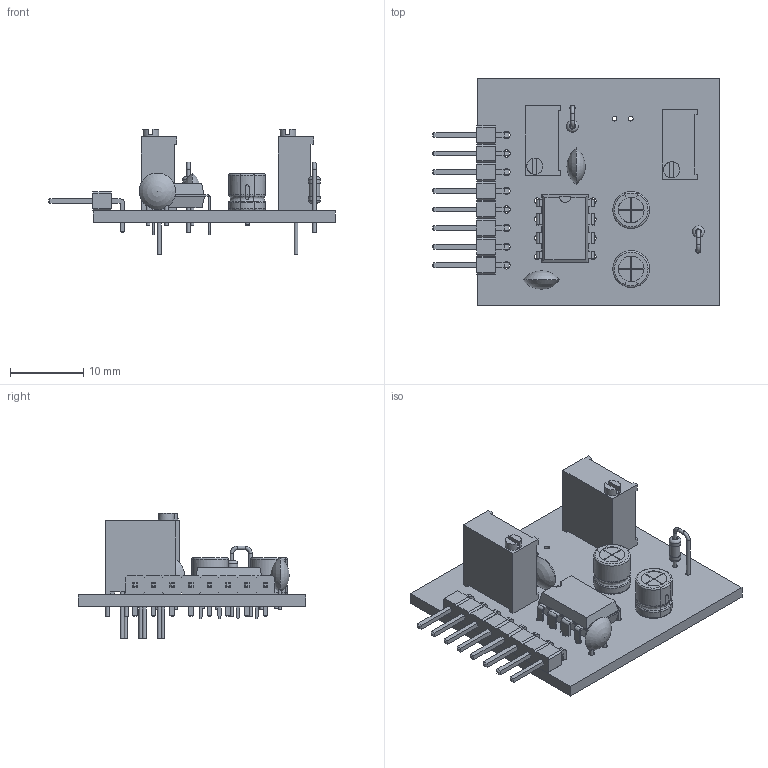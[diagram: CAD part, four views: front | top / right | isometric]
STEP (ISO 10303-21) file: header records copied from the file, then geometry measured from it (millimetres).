
FILE_DESCRIPTION(('KiCad electronic assembly'),'2;1');
FILE_NAME('V2.step','2025-07-06T22:17:55',('Pcbnew'),('Kicad'), 'Open CASCADE STEP processor 7.7','KiCad to STEP converter','Unknown' );
FILE_SCHEMA(('AUTOMOTIVE_DESIGN { 1 0 10303 214 1 1 1 1 }'));
Length unit declared in the file: millimetre
Products named in the file (14): V2 1; Potentiometer_Bourns_3296W_Vertical; C_Disc_D5.0mm_W2.5mm_P2.50mm; C_Disc_D50mm_W25mm_P250mm; DIP-8_W7.62mm; CP_Radial_D5.0mm_P2.00mm; CP_Radial_D50mm_P200mm; R_Axial_DIN0204_L3.6mm_D1.6mm_P2.54mm_Vertical; R_Axial_DIN0204_L36mm_D16mm_P254mm_Vertical; PinHeader_1x08_P2.54mm_Horizontal; PinHeader_1x08_P254mm_Horizontal; MARK3V1_PCB
Assembly tree (17 placements, depth 3):
  V2 1
    Potentiometer_Bourns_3296W_Vertical  x2
      Potentiometer_Bourns_3296W_Vertical
    C_Disc_D5.0mm_W2.5mm_P2.50mm  x2
      C_Disc_D50mm_W25mm_P250mm
    DIP-8_W7.62mm
      DIP-8_W7.62mm
    CP_Radial_D5.0mm_P2.00mm  x2
      CP_Radial_D50mm_P200mm
    R_Axial_DIN0204_L3.6mm_D1.6mm_P2.54mm_Vertical  x2
      R_Axial_DIN0204_L36mm_D16mm_P254mm_Vertical
    PinHeader_1x08_P2.54mm_Horizontal
      PinHeader_1x08_P254mm_Horizontal
    MARK3V1_PCB
Bounding box: 39.04 x 31 x 17.07 mm (x, y, z)
Volume: 3056 mm3; surface area: 4434.1 mm2
Topology: 11 solids, 13 shells, 618 faces, 1534 edges, 974 vertices
Faces by surface type: plane 447, cylinder 113, bspline 32, torus 12, revolution 10, sphere 4
Full cylindrical faces by diameter (mm): 0.5 x16, 0.51 x6, 0.65 x2, 0.7 x4, 0.8 x22, 1 x8, 1.44 x2, 1.6 x4, 2.19 x2
Entity records: 19940 total; most frequent: CARTESIAN_POINT 3919, ORIENTED_EDGE 2588, DIRECTION 2465, EDGE_CURVE 1294, LINE 1038, VECTOR 1038, VERTEX_POINT 822, AXIS2_PLACEMENT_3D 711
